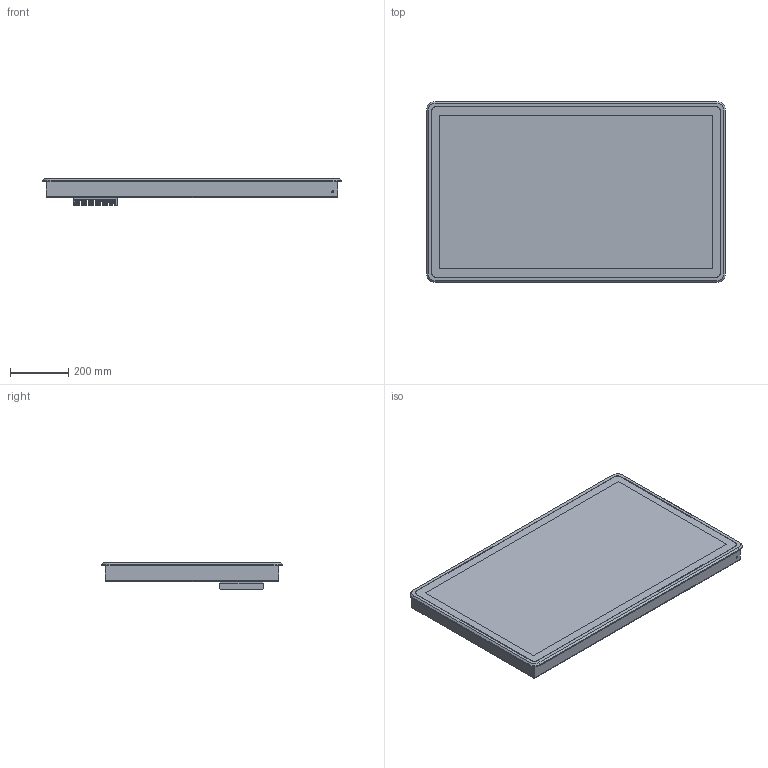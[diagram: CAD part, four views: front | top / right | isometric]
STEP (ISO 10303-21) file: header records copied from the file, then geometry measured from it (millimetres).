
FILE_DESCRIPTION(/* description */ (''),/* implementation_level */ '2;1');
FILE_NAME(/* name */ 'C:\SAPInventorWork\778-41975-00_EXTERN.stp',/* time_stamp */ '2024-09-04T11:46:04+02:00',/* author */ ('Aiple'),/* organization */ (''),/* preprocessor_version */ 'ST-DEVELOPER v18.1',/* originating_system */ 'Autodesk Inventor 2021',/* authorisation */ '');
FILE_SCHEMA (('AUTOMOTIVE_DESIGN { 1 0 10303 214 3 1 1 }'));
Products named in the file (1): 778-41975-00
Bounding box: 1030 x 623 x 92.6 mm (x, y, z)
Volume: 39207665.7 mm3; surface area: 1722897.1 mm2
Topology: 2 solids, 85 shells, 7367 faces, 19902 edges, 13002 vertices
Faces by surface type: plane 4360, cylinder 1754, bspline 657, cone 567, torus 21, sphere 8
Full cylindrical faces by diameter (mm): 0.85 x15, 2.156 x2, 2.459 x18, 2.5 x2, 2.8 x4, 2.9 x2, 2.91 x2, 3 x22, 3.242 x16, 3.5 x22, 4.22 x8, 4.3 x8, 4.7 x2, 4.767 x16, 4.917 x8, 5 x3, 5.2 x1, 5.3 x2, 5.38 x16, 5.4 x16, 5.54 x16, 5.7 x32, 7.738 x8, 8.4 x32, 8.72 x8, 8.8 x8
Entity records: 254853 total; most frequent: CARTESIAN_POINT 67355, ORIENTED_EDGE 39764, DIRECTION 33232, EDGE_CURVE 19882, LINE 13652, VECTOR 13652, VERTEX_POINT 13002, AXIS2_PLACEMENT_3D 9790
